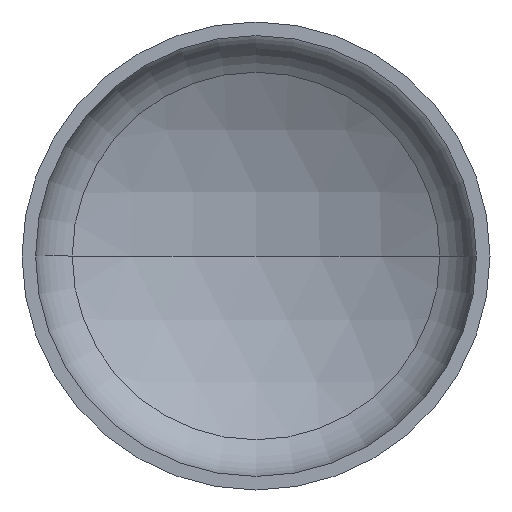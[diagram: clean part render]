
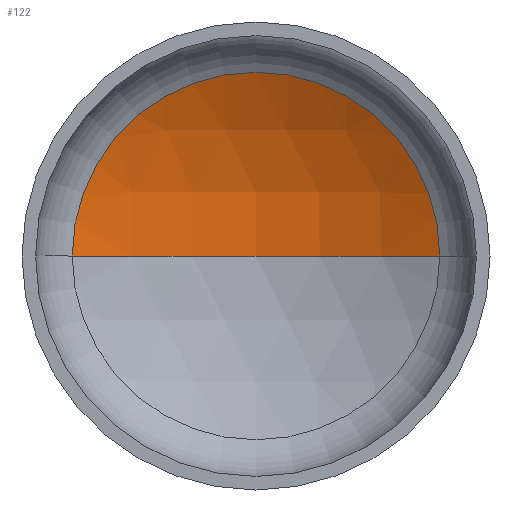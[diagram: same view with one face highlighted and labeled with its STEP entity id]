
A CAD part, front view. The second image highlights one B-rep face of the part: STEP entity #122.
In plain terms, the highlighted spherical face has radius 3200 mm.
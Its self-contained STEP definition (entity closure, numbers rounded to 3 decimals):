
#1 = EDGE_LOOP ( 'NONE', ( #177, #167, #158 ) ) ;
#12 = DIRECTION ( 'NONE',  ( 1., 0., 0. ) ) ;
#13 = DIRECTION ( 'NONE',  ( 0., 0., 1. ) ) ;
#14 = CARTESIAN_POINT ( 'NONE',  ( 0., -2177.08, 0. ) ) ;
#15 = AXIS2_PLACEMENT_3D ( 'NONE', #105, #189, #190 ) ;
#25 = AXIS2_PLACEMENT_3D ( 'NONE', #14, #13, #12 ) ;
#27 = AXIS2_PLACEMENT_3D ( 'NONE', #181, #372, #226 ) ;
#30 = AXIS2_PLACEMENT_3D ( 'NONE', #195, #200, #172 ) ;
#64 = EDGE_CURVE ( 'NONE', #83, #143, #290, .T. ) ;
#67 = EDGE_CURVE ( 'NONE', #207, #83, #119, .T. ) ;
#78 = EDGE_CURVE ( 'NONE', #207, #143, #405, .T. ) ;
#83 = VERTEX_POINT ( 'NONE', #214 ) ;
#105 = CARTESIAN_POINT ( 'NONE',  ( 0., -2177.08, 0. ) ) ;
#119 = CIRCLE ( 'NONE', #27, 3200. ) ;
#122 = ADVANCED_FACE ( 'NONE', ( #225 ), #401, .F. ) ;
#143 = VERTEX_POINT ( 'NONE', #202 ) ;
#158 = ORIENTED_EDGE ( 'NONE', *, *, #64, .T. ) ;
#167 = ORIENTED_EDGE ( 'NONE', *, *, #67, .T. ) ;
#172 = DIRECTION ( 'NONE',  ( 1., 0., 0. ) ) ;
#177 = ORIENTED_EDGE ( 'NONE', *, *, #78, .F. ) ;
#181 = CARTESIAN_POINT ( 'NONE',  ( 0., -2177.08, 0. ) ) ;
#189 = DIRECTION ( 'NONE',  ( 0., 0., -1. ) ) ;
#190 = DIRECTION ( 'NONE',  ( -1., 0., 0. ) ) ;
#195 = CARTESIAN_POINT ( 'NONE',  ( 0., 610.795, 0. ) ) ;
#200 = DIRECTION ( 'NONE',  ( 0., -1., 0. ) ) ;
#202 = CARTESIAN_POINT ( 'NONE',  ( -1570.909, 610.795, 0. ) ) ;
#207 = VERTEX_POINT ( 'NONE', #286 ) ;
#214 = CARTESIAN_POINT ( 'NONE',  ( 1570.909, 610.795, 0. ) ) ;
#225 = FACE_OUTER_BOUND ( 'NONE', #1, .T. ) ;
#226 = DIRECTION ( 'NONE',  ( -1., 0., 0. ) ) ;
#286 = CARTESIAN_POINT ( 'NONE',  ( 0., 1022.92, 0. ) ) ;
#290 = CIRCLE ( 'NONE', #30, 1570.909 ) ;
#372 = DIRECTION ( 'NONE',  ( 0., 0., -1. ) ) ;
#401 = SPHERICAL_SURFACE ( 'NONE', #15, 3200. ) ;
#405 = CIRCLE ( 'NONE', #25, 3200. ) ;
